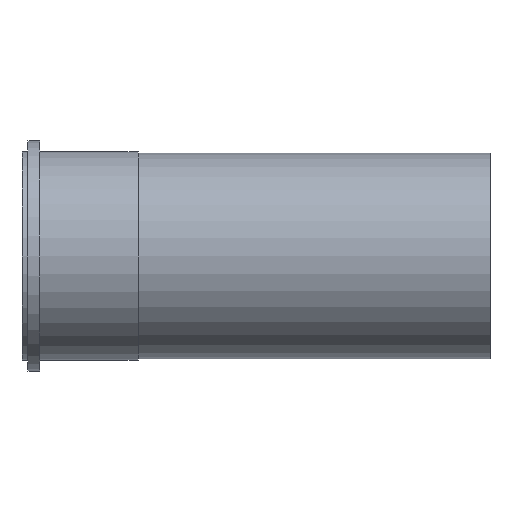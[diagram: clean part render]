
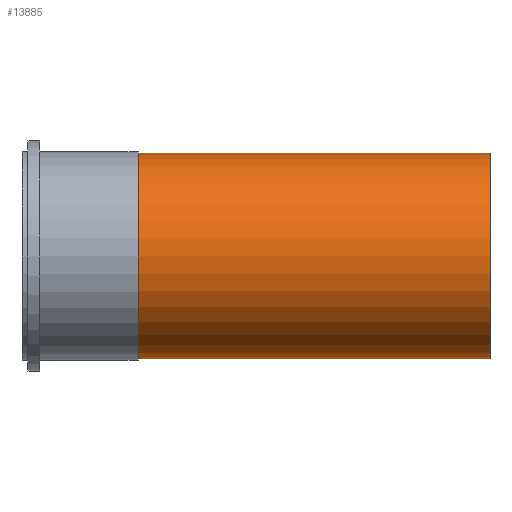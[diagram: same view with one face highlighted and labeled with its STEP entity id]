
A CAD part, front view. The second image highlights one B-rep face of the part: STEP entity #13885.
In plain terms, the highlighted cylindrical face has radius 54.991 mm (diameter 109.982 mm), a full revolution.
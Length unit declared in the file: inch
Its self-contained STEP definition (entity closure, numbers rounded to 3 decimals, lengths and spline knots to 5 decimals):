
#13854=CARTESIAN_POINT('',(2.44,2.165,0.0));
#13855=VERTEX_POINT('',#13854);
#13856=CARTESIAN_POINT('',(2.44,0.0,0.0));
#13857=DIRECTION('',(1.0,0.0,0.0));
#13858=DIRECTION('',(0.0,1.0,0.0));
#13859=AXIS2_PLACEMENT_3D('',#13856,#13857,#13858);
#13860=CIRCLE('',#13859,2.165);
#13861=EDGE_CURVE('',#13855,#13855,#13860,.T.);
#13866=CARTESIAN_POINT('',(6.14126,0.0,0.0));
#13867=DIRECTION('',(1.0,0.0,0.0));
#13868=DIRECTION('',(0.0,1.0,0.0));
#13869=AXIS2_PLACEMENT_3D('',#13866,#13867,#13868);
#13870=CYLINDRICAL_SURFACE('',#13869,2.165);
#13871=CARTESIAN_POINT('',(9.84252,2.165,0.0));
#13872=VERTEX_POINT('',#13871);
#13873=CARTESIAN_POINT('',(9.84252,0.0,0.0));
#13874=DIRECTION('',(1.0,0.0,0.0));
#13875=DIRECTION('',(0.0,1.0,0.0));
#13876=AXIS2_PLACEMENT_3D('',#13873,#13874,#13875);
#13877=CIRCLE('',#13876,2.165);
#13878=EDGE_CURVE('',#13872,#13872,#13877,.T.);
#13879=ORIENTED_EDGE('',*,*,#13878,.F.);
#13880=EDGE_LOOP('',(#13879));
#13881=FACE_OUTER_BOUND('',#13880,.T.);
#13882=ORIENTED_EDGE('',*,*,#13861,.T.);
#13883=EDGE_LOOP('',(#13882));
#13884=FACE_BOUND('',#13883,.T.);
#13885=ADVANCED_FACE('',(#13881,#13884),#13870,.T.);
